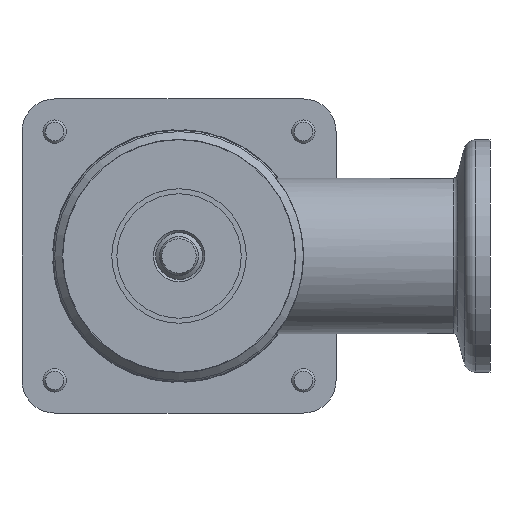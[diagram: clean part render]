
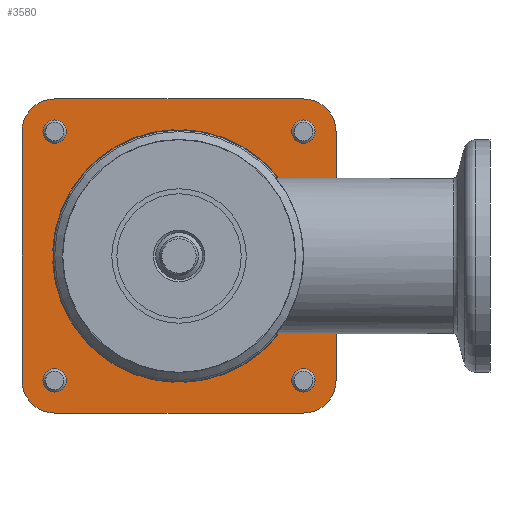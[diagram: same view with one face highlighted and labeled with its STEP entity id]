
A CAD part, front view. The second image highlights one B-rep face of the part: STEP entity #3580.
In plain terms, the highlighted planar face has unit normal (0, -1, 0) as drawn and (0, 1, 0) by its records, which use the part's own axes.
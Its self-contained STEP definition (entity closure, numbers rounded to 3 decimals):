
#2398=LINE('',#14504,#2945);
#2402=LINE('',#14513,#2949);
#2406=LINE('',#14525,#2953);
#2410=LINE('',#14534,#2957);
#2414=LINE('',#14546,#2961);
#2418=LINE('',#14555,#2965);
#2422=LINE('',#14567,#2969);
#2425=LINE('',#14583,#2972);
#2429=LINE('',#14593,#2976);
#2432=LINE('',#14601,#2979);
#2435=LINE('',#14609,#2982);
#2437=LINE('',#14614,#2984);
#2945=VECTOR('',#11405,1.);
#2949=VECTOR('',#11411,1.);
#2953=VECTOR('',#11423,1.);
#2957=VECTOR('',#11429,1.);
#2961=VECTOR('',#11441,1.);
#2965=VECTOR('',#11447,1.);
#2969=VECTOR('',#11459,1.);
#2972=VECTOR('',#11482,1.);
#2976=VECTOR('',#11492,1.);
#2979=VECTOR('',#11501,1.);
#2982=VECTOR('',#11510,1.);
#2984=VECTOR('',#11518,1.);
#3580=ADVANCED_FACE('',(#4174,#4175,#4176,#4177,#4178,#4179),#3822,.T.);
#3822=PLANE('',#9475);
#4174=FACE_BOUND('',#4816,.T.);
#4175=FACE_BOUND('',#4817,.T.);
#4176=FACE_BOUND('',#4818,.T.);
#4177=FACE_BOUND('',#4819,.T.);
#4178=FACE_BOUND('',#4820,.T.);
#4179=FACE_BOUND('',#4821,.T.);
#4816=EDGE_LOOP('',(#6684));
#4817=EDGE_LOOP('',(#6685));
#4818=EDGE_LOOP('',(#6686));
#4819=EDGE_LOOP('',(#6687));
#4820=EDGE_LOOP('',(#6688,#6689,#6690,#6691,#6692,#6693,#6694,#6695));
#4821=EDGE_LOOP('',(#6696,#6697,#6698,#6699,#6700,#6701,#6702,#6703,#6704,
#6705,#6706,#6707,#6708,#6709,#6710,#6711));
#6684=ORIENTED_EDGE('',*,*,#8388,.F.);
#6685=ORIENTED_EDGE('',*,*,#8389,.F.);
#6686=ORIENTED_EDGE('',*,*,#8390,.F.);
#6687=ORIENTED_EDGE('',*,*,#8391,.F.);
#6688=ORIENTED_EDGE('',*,*,#8371,.T.);
#6689=ORIENTED_EDGE('',*,*,#8374,.T.);
#6690=ORIENTED_EDGE('',*,*,#8376,.T.);
#6691=ORIENTED_EDGE('',*,*,#8378,.T.);
#6692=ORIENTED_EDGE('',*,*,#8380,.T.);
#6693=ORIENTED_EDGE('',*,*,#8382,.T.);
#6694=ORIENTED_EDGE('',*,*,#8384,.T.);
#6695=ORIENTED_EDGE('',*,*,#8385,.T.);
#6696=ORIENTED_EDGE('',*,*,#8327,.T.);
#6697=ORIENTED_EDGE('',*,*,#8330,.T.);
#6698=ORIENTED_EDGE('',*,*,#8369,.T.);
#6699=ORIENTED_EDGE('',*,*,#8334,.T.);
#6700=ORIENTED_EDGE('',*,*,#8337,.T.);
#6701=ORIENTED_EDGE('',*,*,#8340,.T.);
#6702=ORIENTED_EDGE('',*,*,#8367,.T.);
#6703=ORIENTED_EDGE('',*,*,#8344,.T.);
#6704=ORIENTED_EDGE('',*,*,#8347,.T.);
#6705=ORIENTED_EDGE('',*,*,#8350,.T.);
#6706=ORIENTED_EDGE('',*,*,#8365,.T.);
#6707=ORIENTED_EDGE('',*,*,#8354,.T.);
#6708=ORIENTED_EDGE('',*,*,#8357,.T.);
#6709=ORIENTED_EDGE('',*,*,#8360,.T.);
#6710=ORIENTED_EDGE('',*,*,#8363,.T.);
#6711=ORIENTED_EDGE('',*,*,#8387,.T.);
#7397=VERTEX_POINT('',#14492);
#7400=VERTEX_POINT('',#14497);
#7402=VERTEX_POINT('',#14503);
#7403=VERTEX_POINT('',#14507);
#7406=VERTEX_POINT('',#14512);
#7408=VERTEX_POINT('',#14518);
#7410=VERTEX_POINT('',#14524);
#7411=VERTEX_POINT('',#14528);
#7414=VERTEX_POINT('',#14533);
#7416=VERTEX_POINT('',#14539);
#7418=VERTEX_POINT('',#14545);
#7419=VERTEX_POINT('',#14549);
#7422=VERTEX_POINT('',#14554);
#7424=VERTEX_POINT('',#14560);
#7426=VERTEX_POINT('',#14566);
#7428=VERTEX_POINT('',#14572);
#7429=VERTEX_POINT('',#14582);
#7430=VERTEX_POINT('',#14584);
#7431=VERTEX_POINT('',#14588);
#7432=VERTEX_POINT('',#14592);
#7433=VERTEX_POINT('',#14596);
#7434=VERTEX_POINT('',#14600);
#7435=VERTEX_POINT('',#14604);
#7436=VERTEX_POINT('',#14608);
#7437=VERTEX_POINT('',#14617);
#7438=VERTEX_POINT('',#14619);
#7439=VERTEX_POINT('',#14621);
#7440=VERTEX_POINT('',#14623);
#8327=EDGE_CURVE('',#7397,#7400,#8711,.T.);
#8330=EDGE_CURVE('',#7400,#7402,#2398,.T.);
#8334=EDGE_CURVE('',#7403,#7406,#2402,.T.);
#8337=EDGE_CURVE('',#7406,#7408,#8713,.T.);
#8340=EDGE_CURVE('',#7408,#7410,#2406,.T.);
#8344=EDGE_CURVE('',#7411,#7414,#2410,.T.);
#8347=EDGE_CURVE('',#7414,#7416,#8715,.T.);
#8350=EDGE_CURVE('',#7416,#7418,#2414,.T.);
#8354=EDGE_CURVE('',#7419,#7422,#2418,.T.);
#8357=EDGE_CURVE('',#7422,#7424,#8717,.T.);
#8360=EDGE_CURVE('',#7424,#7426,#2422,.T.);
#8363=EDGE_CURVE('',#7426,#7428,#8719,.T.);
#8365=EDGE_CURVE('',#7418,#7419,#8721,.T.);
#8367=EDGE_CURVE('',#7410,#7411,#8723,.T.);
#8369=EDGE_CURVE('',#7402,#7403,#8725,.T.);
#8371=EDGE_CURVE('',#7430,#7429,#2425,.T.);
#8374=EDGE_CURVE('',#7429,#7431,#8726,.T.);
#8376=EDGE_CURVE('',#7431,#7432,#2429,.T.);
#8378=EDGE_CURVE('',#7432,#7433,#8727,.T.);
#8380=EDGE_CURVE('',#7433,#7434,#2432,.T.);
#8382=EDGE_CURVE('',#7434,#7435,#8728,.T.);
#8384=EDGE_CURVE('',#7435,#7436,#2435,.T.);
#8385=EDGE_CURVE('',#7436,#7430,#8729,.T.);
#8387=EDGE_CURVE('',#7428,#7397,#2437,.T.);
#8388=EDGE_CURVE('',#7437,#7437,#8730,.T.);
#8389=EDGE_CURVE('',#7438,#7438,#8731,.T.);
#8390=EDGE_CURVE('',#7439,#7439,#8732,.T.);
#8391=EDGE_CURVE('',#7440,#7440,#8733,.T.);
#8711=CIRCLE('',#9431,16.1);
#8713=CIRCLE('',#9436,16.1);
#8715=CIRCLE('',#9441,16.1);
#8717=CIRCLE('',#9446,16.1);
#8719=CIRCLE('',#9450,16.275);
#8721=CIRCLE('',#9452,16.275);
#8723=CIRCLE('',#9454,16.275);
#8725=CIRCLE('',#9456,16.275);
#8726=CIRCLE('',#9459,4.2);
#8727=CIRCLE('',#9462,4.2);
#8728=CIRCLE('',#9465,4.2);
#8729=CIRCLE('',#9468,4.2);
#8730=CIRCLE('',#9471,1.5);
#8731=CIRCLE('',#9472,1.5);
#8732=CIRCLE('',#9473,1.5);
#8733=CIRCLE('',#9474,1.5);
#9431=AXIS2_PLACEMENT_3D('',#14498,#11399,#11400);
#9436=AXIS2_PLACEMENT_3D('',#14519,#11417,#11418);
#9441=AXIS2_PLACEMENT_3D('',#14540,#11435,#11436);
#9446=AXIS2_PLACEMENT_3D('',#14561,#11453,#11454);
#9450=AXIS2_PLACEMENT_3D('',#14573,#11465,#11466);
#9452=AXIS2_PLACEMENT_3D('',#14575,#11469,#11470);
#9454=AXIS2_PLACEMENT_3D('',#14577,#11473,#11474);
#9456=AXIS2_PLACEMENT_3D('',#14579,#11477,#11478);
#9459=AXIS2_PLACEMENT_3D('',#14589,#11487,#11488);
#9462=AXIS2_PLACEMENT_3D('',#14597,#11496,#11497);
#9465=AXIS2_PLACEMENT_3D('',#14605,#11505,#11506);
#9468=AXIS2_PLACEMENT_3D('',#14611,#11513,#11514);
#9471=AXIS2_PLACEMENT_3D('',#14616,#11521,#11522);
#9472=AXIS2_PLACEMENT_3D('',#14618,#11523,#11524);
#9473=AXIS2_PLACEMENT_3D('',#14620,#11525,#11526);
#9474=AXIS2_PLACEMENT_3D('',#14622,#11527,#11528);
#9475=AXIS2_PLACEMENT_3D('',#14624,#11529,#11530);
#11399=DIRECTION('',(0.,-1.,0.));
#11400=DIRECTION('',(0.,0.,1.));
#11405=DIRECTION('',(0.,0.,1.));
#11411=DIRECTION('',(1.,0.,0.));
#11417=DIRECTION('',(0.,-1.,0.));
#11418=DIRECTION('',(0.,0.,1.));
#11423=DIRECTION('',(-1.,0.,0.));
#11429=DIRECTION('',(0.,0.,1.));
#11435=DIRECTION('',(0.,-1.,0.));
#11436=DIRECTION('',(0.,0.,1.));
#11441=DIRECTION('',(0.,0.,-1.));
#11447=DIRECTION('',(-1.,0.,0.));
#11453=DIRECTION('',(0.,-1.,0.));
#11454=DIRECTION('',(0.,0.,1.));
#11459=DIRECTION('',(1.,0.,0.));
#11465=DIRECTION('',(0.,-1.,0.));
#11466=DIRECTION('',(0.,0.,1.));
#11469=DIRECTION('',(0.,-1.,0.));
#11470=DIRECTION('',(0.,0.,1.));
#11473=DIRECTION('',(0.,-1.,0.));
#11474=DIRECTION('',(0.,0.,1.));
#11477=DIRECTION('',(0.,-1.,0.));
#11478=DIRECTION('',(0.,0.,1.));
#11482=DIRECTION('',(0.,0.,-1.));
#11487=DIRECTION('',(0.,1.,0.));
#11488=DIRECTION('',(1.,0.,0.));
#11492=DIRECTION('',(-1.,0.,0.));
#11496=DIRECTION('',(0.,1.,0.));
#11497=DIRECTION('',(0.,0.,-1.));
#11501=DIRECTION('',(0.,0.,1.));
#11505=DIRECTION('',(0.,1.,0.));
#11506=DIRECTION('',(-1.,0.,0.));
#11510=DIRECTION('',(1.,0.,0.));
#11513=DIRECTION('',(0.,1.,0.));
#11514=DIRECTION('',(0.,0.,1.));
#11518=DIRECTION('',(0.,0.,-1.));
#11521=DIRECTION('',(0.,1.,0.));
#11522=DIRECTION('',(-1.,0.,0.));
#11523=DIRECTION('',(0.,1.,0.));
#11524=DIRECTION('',(-1.,0.,0.));
#11525=DIRECTION('',(0.,1.,0.));
#11526=DIRECTION('',(-1.,0.,0.));
#11527=DIRECTION('',(0.,1.,0.));
#11528=DIRECTION('',(-1.,0.,0.));
#11529=DIRECTION('',(0.,1.,0.));
#11530=DIRECTION('',(0.,0.,1.));
#14492=CARTESIAN_POINT('',(0.75,6.,16.083));
#14497=CARTESIAN_POINT('',(-0.75,6.,16.083));
#14498=CARTESIAN_POINT('',(0.,6.,0.));
#14503=CARTESIAN_POINT('',(-0.75,6.,16.258));
#14504=CARTESIAN_POINT('',(-0.75,6.,16.083));
#14507=CARTESIAN_POINT('',(-16.258,6.,0.75));
#14512=CARTESIAN_POINT('',(-16.083,6.,0.75));
#14513=CARTESIAN_POINT('',(-16.258,6.,0.75));
#14518=CARTESIAN_POINT('',(-16.083,6.,-0.75));
#14519=CARTESIAN_POINT('',(0.,6.,0.));
#14524=CARTESIAN_POINT('',(-16.258,6.,-0.75));
#14525=CARTESIAN_POINT('',(-16.083,6.,-0.75));
#14528=CARTESIAN_POINT('',(-0.75,6.,-16.258));
#14533=CARTESIAN_POINT('',(-0.75,6.,-16.083));
#14534=CARTESIAN_POINT('',(-0.75,6.,-16.258));
#14539=CARTESIAN_POINT('',(0.75,6.,-16.083));
#14540=CARTESIAN_POINT('',(0.,6.,0.));
#14545=CARTESIAN_POINT('',(0.75,6.,-16.258));
#14546=CARTESIAN_POINT('',(0.75,6.,-16.083));
#14549=CARTESIAN_POINT('',(16.258,6.,-0.75));
#14554=CARTESIAN_POINT('',(16.083,6.,-0.75));
#14555=CARTESIAN_POINT('',(16.258,6.,-0.75));
#14560=CARTESIAN_POINT('',(16.083,6.,0.75));
#14561=CARTESIAN_POINT('',(0.,6.,0.));
#14566=CARTESIAN_POINT('',(16.258,6.,0.75));
#14567=CARTESIAN_POINT('',(16.083,6.,0.75));
#14572=CARTESIAN_POINT('',(0.75,6.,16.258));
#14573=CARTESIAN_POINT('',(0.,6.,0.));
#14575=CARTESIAN_POINT('',(0.,6.,0.));
#14577=CARTESIAN_POINT('',(0.,6.,0.));
#14579=CARTESIAN_POINT('',(0.,6.,0.));
#14582=CARTESIAN_POINT('',(20.2,6.,-16.));
#14583=CARTESIAN_POINT('',(20.2,6.,16.));
#14584=CARTESIAN_POINT('',(20.2,6.,16.));
#14588=CARTESIAN_POINT('',(16.,6.,-20.2));
#14589=CARTESIAN_POINT('',(16.,6.,-16.));
#14592=CARTESIAN_POINT('',(-16.,6.,-20.2));
#14593=CARTESIAN_POINT('',(16.,6.,-20.2));
#14596=CARTESIAN_POINT('',(-20.2,6.,-16.));
#14597=CARTESIAN_POINT('',(-16.,6.,-16.));
#14600=CARTESIAN_POINT('',(-20.2,6.,16.));
#14601=CARTESIAN_POINT('',(-20.2,6.,-16.));
#14604=CARTESIAN_POINT('',(-16.,6.,20.2));
#14605=CARTESIAN_POINT('',(-16.,6.,16.));
#14608=CARTESIAN_POINT('',(16.,6.,20.2));
#14609=CARTESIAN_POINT('',(-16.,6.,20.2));
#14611=CARTESIAN_POINT('',(16.,6.,16.));
#14614=CARTESIAN_POINT('',(0.75,6.,16.258));
#14616=CARTESIAN_POINT('',(-16.,6.,16.));
#14617=CARTESIAN_POINT('',(-17.5,6.,16.));
#14618=CARTESIAN_POINT('',(16.,6.,-16.));
#14619=CARTESIAN_POINT('',(14.5,6.,-16.));
#14620=CARTESIAN_POINT('',(-16.,6.,-16.));
#14621=CARTESIAN_POINT('',(-17.5,6.,-16.));
#14622=CARTESIAN_POINT('',(16.,6.,16.));
#14623=CARTESIAN_POINT('',(14.5,6.,16.));
#14624=CARTESIAN_POINT('',(16.,6.,-16.));
